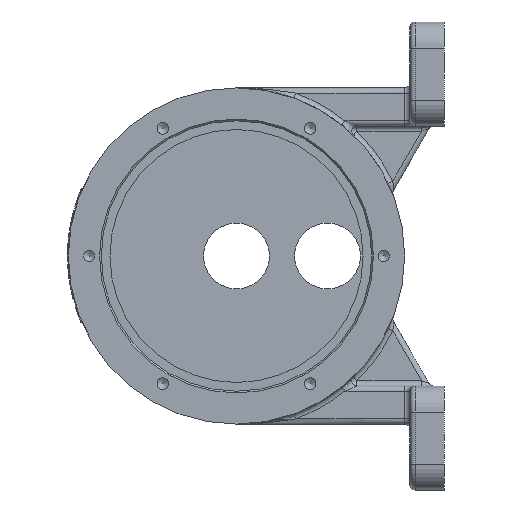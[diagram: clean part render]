
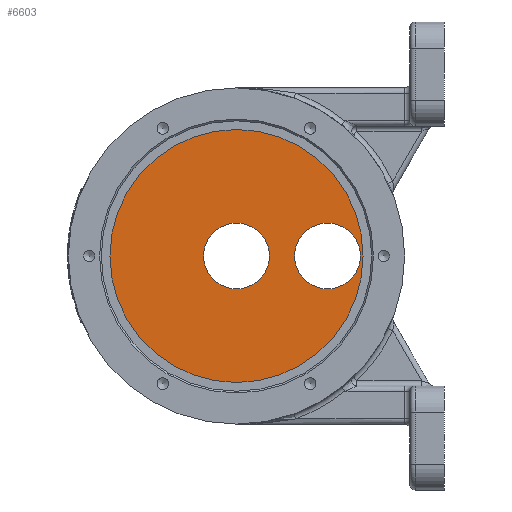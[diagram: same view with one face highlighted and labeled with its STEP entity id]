
A CAD part, left-side view. The second image highlights one B-rep face of the part: STEP entity #6603.
In plain terms, the highlighted planar face has unit normal (-1, 0, 0).
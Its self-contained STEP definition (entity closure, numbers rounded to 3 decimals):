
#514=FACE_BOUND('',#1472,.T.);
#515=FACE_BOUND('',#1473,.T.);
#646=PLANE('',#7251);
#1025=FACE_OUTER_BOUND('',#1471,.T.);
#1471=EDGE_LOOP('',(#6137));
#1472=EDGE_LOOP('',(#6138));
#1473=EDGE_LOOP('',(#6139));
#2642=CIRCLE('',#7205,19.);
#2648=CIRCLE('',#7214,19.);
#2671=CIRCLE('',#7249,84.);
#3273=VERTEX_POINT('',#13448);
#3278=VERTEX_POINT('',#13463);
#3299=VERTEX_POINT('',#13525);
#4215=EDGE_CURVE('',#3273,#3273,#2642,.T.);
#4222=EDGE_CURVE('',#3278,#3278,#2648,.T.);
#4250=EDGE_CURVE('',#3299,#3299,#2671,.T.);
#6137=ORIENTED_EDGE('',*,*,#4250,.F.);
#6138=ORIENTED_EDGE('',*,*,#4222,.T.);
#6139=ORIENTED_EDGE('',*,*,#4215,.T.);
#6603=ADVANCED_FACE('',(#1025,#514,#515),#646,.T.);
#7205=AXIS2_PLACEMENT_3D('',#13450,#8814,#8815);
#7214=AXIS2_PLACEMENT_3D('',#13465,#8833,#8834);
#7249=AXIS2_PLACEMENT_3D('',#13526,#8908,#8909);
#7251=AXIS2_PLACEMENT_3D('',#13528,#8912,#8913);
#8814=DIRECTION('center_axis',(1.,0.,0.));
#8815=DIRECTION('ref_axis',(0.,1.,0.));
#8833=DIRECTION('center_axis',(1.,0.,0.));
#8834=DIRECTION('ref_axis',(0.,0.,-1.));
#8908=DIRECTION('center_axis',(1.,0.,0.));
#8909=DIRECTION('ref_axis',(0.,0.,-1.));
#8912=DIRECTION('center_axis',(-1.,0.,0.));
#8913=DIRECTION('ref_axis',(0.,0.,1.));
#13448=CARTESIAN_POINT('',(-8.,-71.5,0.));
#13450=CARTESIAN_POINT('Origin',(-8.,-52.5,0.));
#13463=CARTESIAN_POINT('',(-8.,-19.,0.));
#13465=CARTESIAN_POINT('Origin',(-8.,0.,
0.));
#13525=CARTESIAN_POINT('',(-8.,0.,84.));
#13526=CARTESIAN_POINT('Origin',(-8.,0.,
0.));
#13528=CARTESIAN_POINT('Origin',(-8.,84.,0.));
